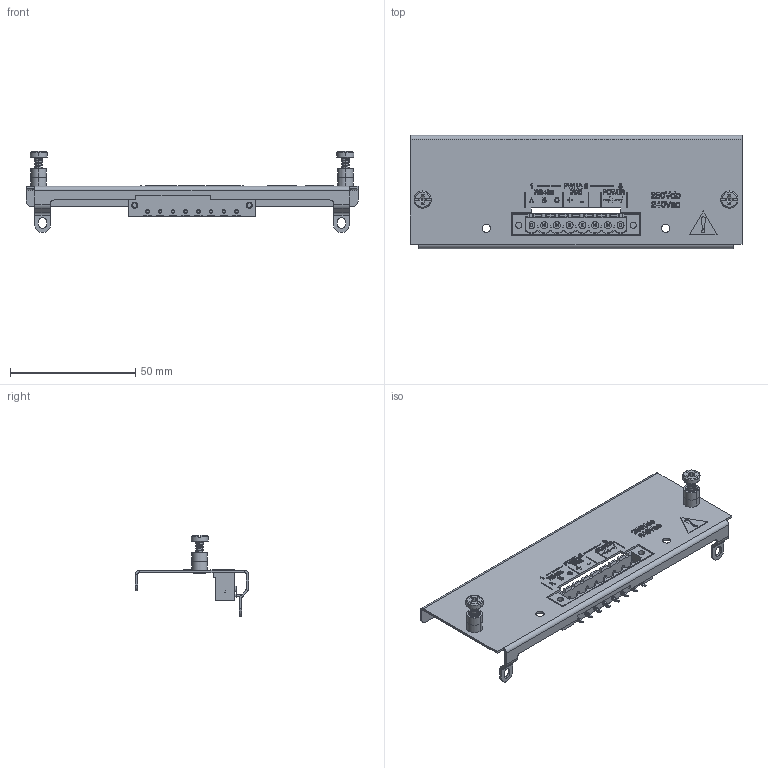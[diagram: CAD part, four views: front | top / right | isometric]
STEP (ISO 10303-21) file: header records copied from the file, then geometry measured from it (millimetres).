
FILE_DESCRIPTION(/* description */ (''),/* implementation_level */ '2;1');
FILE_NAME(/* name */ 'C:\Users\jondi\Desktop\FLEX 3D STP\PWRA-2.stp',/* time_stamp */ '2021-03-11T08:08:00-06:00',/* author */ ('jondi'),/* organization */ (''),/* preprocessor_version */ 'ST-DEVELOPER v17.2',/* originating_system */ 'Autodesk Inventor 2019',/* authorisation */ '');
FILE_SCHEMA (('AUTOMOTIVE_DESIGN { 1 0 10303 214 3 1 1 }'));
Products named in the file (7): PWRA-2; 9579230101; 9579200013; 9579200013_1; 44090; 44086; 9579200056
Assembly tree (7 placements, depth 4):
  PWRA-2
    9579230101
      9579200013
        9579200013_1
      44090  x2
    44086
    9579200056
Bounding box: 132.59 x 45.21 x 32.36 mm (x, y, z)
Volume: 9670.2 mm3; surface area: 19405.7 mm2
Topology: 60 solids, 60 shells, 1783 faces, 4351 edges, 2755 vertices
Faces by surface type: plane 1321, bspline 270, cylinder 118, cone 62, sphere 8, torus 4
Full cylindrical faces by diameter (mm): 0.434 x1, 1.4 x8, 1.8 x2, 2.4 x2, 2.5 x2, 2.8 x7, 3.353 x2, 4.826 x2
Entity records: 53782 total; most frequent: CARTESIAN_POINT 14596, ORIENTED_EDGE 8258, DIRECTION 6828, EDGE_CURVE 4129, LINE 3130, VECTOR 3130, VERTEX_POINT 2629, AXIS2_PLACEMENT_3D 1849
